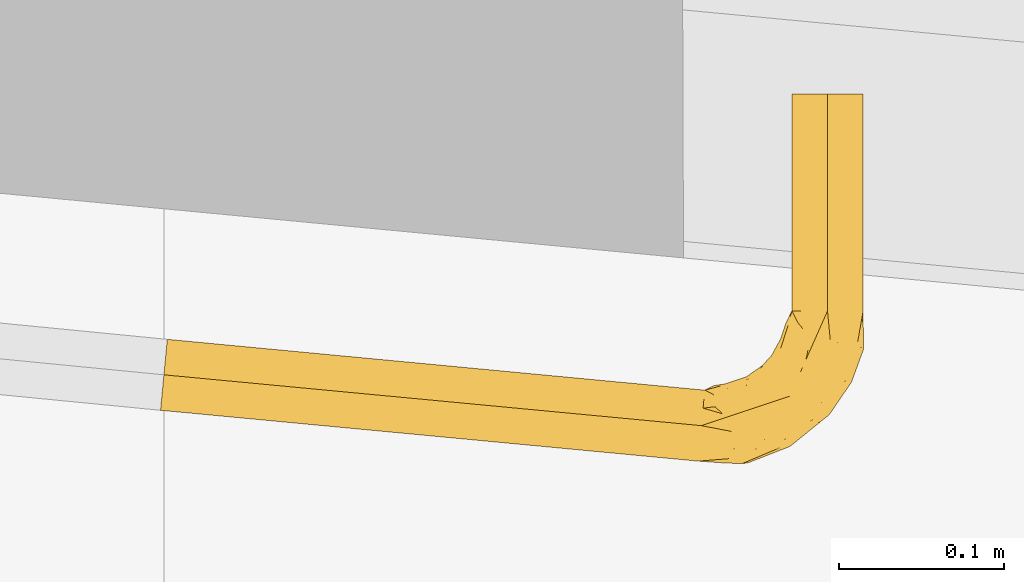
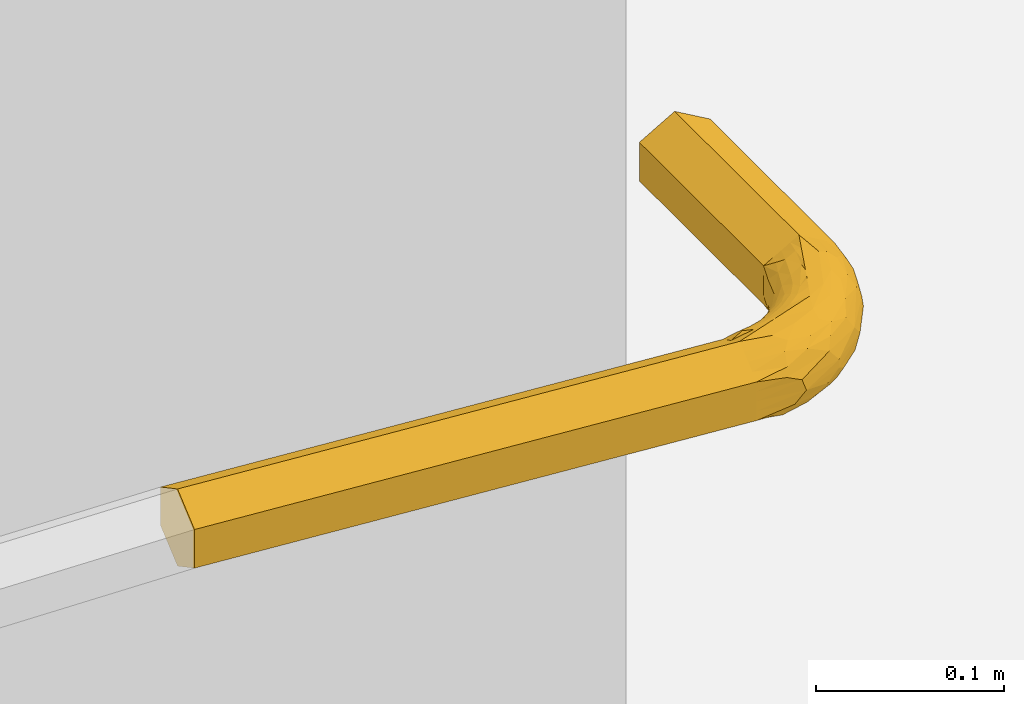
# One storey, part 65 of 128: 1 railing.
"""IFC2X3 building model written with IfcOpenShell, lengths in metres."""

from ifc_helpers import new_model, entity, si_unit, converted_unit, derived_unit, direction, frame, origin, place, context, subcontext, project, spatial, faceted_brep, material, type_object, element, save


model = new_model("IFC2X3")

# Units and contexts
model_context = context("Model", 3, precision=1e-05, world=origin(), true_north=direction((6.123031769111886e-17, 1.0)))
body_context = subcontext(model_context, "Body", "Model", "MODEL_VIEW")
ifc_project = project(units=[si_unit("LENGTHUNIT", "METRE"), si_unit("AREAUNIT", "SQUARE_METRE"), converted_unit("PLANEANGLEUNIT", "DEGREE", entity("IfcPlaneAngleMeasure", 0.017453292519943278), si_unit("PLANEANGLEUNIT", "RADIAN"), dimensions=[0, 0, 0, 0, 0, 0, 0]), derived_unit("THERMALTRANSMITTANCEUNIT", [(si_unit("MASSUNIT", "GRAM", prefix="KILO"), 1), (si_unit("THERMODYNAMICTEMPERATUREUNIT", "KELVIN"), -1), (si_unit("TIMEUNIT", "SECOND"), -3)])], contexts=[model_context])

# Site, building, storey
site_placement = place(None, origin())
site = spatial("IfcSite", under=ifc_project, at=site_placement, Name="Default", CompositionType="ELEMENT")
building_placement = place(site_placement, origin())
building = spatial("IfcBuilding", under=site, at=building_placement, CompositionType="ELEMENT")
storey_placement = place(building_placement, origin())
storey = spatial("IfcBuildingStorey", under=building, at=storey_placement, Name="00_RDC CAF", CompositionType="ELEMENT", Elevation=2.4982504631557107e-13)

# Railing
ifc_material = material(Name="ARC - Metal")
railing_type = type_object("IfcRailingType", Name="Garde-corps:GC_1_lisse_D50_950mm 2", PredefinedType="NOTDEFINED")
railing_placement = place(storey_placement, frame((21.603095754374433, 146.45242067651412, 0.8984047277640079)))
element("IfcRailing", 1, at=railing_placement, inside=storey, type_object=railing_type, material=ifc_material, Name="Garde-corps:GC_1_lisse_D50_950mm 2", ObjectType="Garde-corps:GC_1_lisse_D50_950mm 2", PredefinedType="NOTDEFINED", context=body_context, shape_type="Brep", body=[
    faceted_brep([(0.4287881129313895, 0.22806232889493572, 0.03909527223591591), (0.4287881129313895, 0.22806232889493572, 0.03284527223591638), (0.4287881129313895, 0.22806232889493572, 0.02659527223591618), (0.4287881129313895, 0.22806232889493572, 0.020345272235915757), (0.4287881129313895, 0.22806232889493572, 0.014095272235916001), (0.4233754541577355, 0.22806232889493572, 0.010970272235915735), (0.41796279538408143, 0.22806232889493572, 0.007845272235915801), (0.41255013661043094, 0.22806232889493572, 0.004720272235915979), (0.4071374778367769, 0.22806232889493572, 0.0015952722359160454), (0.40236088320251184, 0.22806232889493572, 0.004353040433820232), (0.39758428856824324, 0.22806232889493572, 0.007110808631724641), (0.39153556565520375, 0.22806232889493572, 0.010603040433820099), (0.3854868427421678, 0.22806232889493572, 0.014095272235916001), (0.3854868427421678, 0.22806232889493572, 0.020345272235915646), (0.3854868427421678, 0.22806232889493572, 0.026595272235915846), (0.3854868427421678, 0.22806232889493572, 0.032845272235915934), (0.3854868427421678, 0.22806232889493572, 0.03909527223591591), (0.3908995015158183, 0.22806232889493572, 0.04222027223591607), (0.3963121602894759, 0.22806232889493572, 0.04534527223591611), (0.4017248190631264, 0.22806232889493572, 0.048470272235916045), (0.4071374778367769, 0.22806232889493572, 0.05159527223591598), (0.4119140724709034, 0.22806232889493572, 0.04883750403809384), (0.41669066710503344, 0.22806232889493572, 0.04607973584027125), (0.4227393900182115, 0.22806232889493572, 0.04258750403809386), (0.4071374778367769, 0.09617335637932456, 0.0015952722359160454), (0.4017248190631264, 0.09617335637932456, 0.004720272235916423), (0.3963121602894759, 0.09617335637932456, 0.0078452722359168), (0.3908995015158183, 0.09617335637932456, 0.010970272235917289), (0.3854868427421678, 0.09617335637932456, 0.014095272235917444), (0.3854868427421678, 0.09617335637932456, 0.03909527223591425), (0.38822661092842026, 0.09617335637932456, 0.040677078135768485), (0.3908995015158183, 0.09617335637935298, 0.042220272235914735), (0.3963121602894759, 0.09617335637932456, 0.04534527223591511), (0.4017916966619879, 0.09617335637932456, 0.04850888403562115), (0.4023608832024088, 0.09617335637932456, 0.04883750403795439), (0.4071374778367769, 0.09617335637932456, 0.05159527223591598), (0.3854868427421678, 0.09617335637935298, 0.020345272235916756), (0.3854868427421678, 0.09617335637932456, 0.026595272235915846), (0.3854868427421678, 0.09617335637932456, 0.032845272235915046), (0.4125501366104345, 0.09617335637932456, 0.048470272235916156), (0.417962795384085, 0.09617335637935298, 0.04534527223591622), (0.4233754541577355, 0.09617335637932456, 0.04222027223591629), (0.4287881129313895, 0.09617335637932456, 0.03909527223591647), (0.4287881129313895, 0.09617335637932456, 0.014095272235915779), (0.4233754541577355, 0.09617335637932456, 0.010970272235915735), (0.417962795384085, 0.09617335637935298, 0.007845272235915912), (0.4124865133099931, 0.09617335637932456, 0.0046835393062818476), (0.411914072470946, 0.09617335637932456, 0.004353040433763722), (0.4287881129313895, 0.09617335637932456, 0.03284527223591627), (0.4287881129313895, 0.09617335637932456, 0.02659527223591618), (0.4287881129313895, 0.09617335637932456, 0.02034527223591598), (0.38751513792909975, 0.05178951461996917, 0.0515952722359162), (0.37931837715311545, 0.04994493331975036, 0.050468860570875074), (0.38424747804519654, 0.04439838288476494, 0.05159527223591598), (0.38168312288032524, 0.08842866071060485, 0.023332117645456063), (0.3953480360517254, 0.07287458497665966, 0.050505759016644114), (0.39897202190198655, 0.08561187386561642, 0.05051487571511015), (0.3924421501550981, 0.08506481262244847, 0.04757841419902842), (0.34728164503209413, 0.04483958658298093, 0.04427708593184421), (0.35749487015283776, 0.05080555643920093, 0.04122261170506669), (0.34527112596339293, 0.04878197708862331, 0.03862447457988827), (0.3890275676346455, 0.08921053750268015, 0.04430570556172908), (0.3876927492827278, 0.0710588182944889, 0.047604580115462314), (0.3838539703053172, 0.06229309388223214, 0.04836510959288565), (0.39012686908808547, 0.06507804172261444, 0.05008389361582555), (0.38424747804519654, 0.04439838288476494, 0.0015952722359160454), (0.37753447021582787, 0.04707762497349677, 0.0024338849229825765), (0.3857417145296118, 0.05206765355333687, 0.0019796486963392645), (0.38482577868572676, 0.056346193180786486, 0.05032486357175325), (0.37828454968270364, 0.05459011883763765, 0.04879323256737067), (0.37260194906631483, 0.051024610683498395, 0.004995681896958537), (0.3790540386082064, 0.0610778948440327, 0.006847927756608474), (0.3829276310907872, 0.05689725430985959, 0.0035424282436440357), (0.3654174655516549, 0.059925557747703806, 0.0196830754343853), (0.3674224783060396, 0.06288944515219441, 0.02659527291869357), (0.37314869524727, 0.06832919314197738, 0.021520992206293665), (0.3973181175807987, 0.07396290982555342, 0.05159527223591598), (0.4022277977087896, 0.08506813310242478, 0.05159527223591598), (0.38519189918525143, 0.08743013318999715, 0.013276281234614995), (0.38244804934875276, 0.07849873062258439, 0.013611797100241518), (0.3830757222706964, 0.08753607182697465, 0.017423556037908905), (0.3508193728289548, 0.05241037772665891, 0.033065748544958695), (0.35783974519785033, 0.056161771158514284, 0.028177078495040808), (0.3448632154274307, 0.05182775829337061, 0.025772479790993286), (0.350832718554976, 0.04199476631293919, 0.047227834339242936), (0.3404314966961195, 0.04174614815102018, 0.04623146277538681), (0.33884940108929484, 0.03799257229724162, 0.048638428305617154), (0.37782410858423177, 0.06618162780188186, 0.010893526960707), (0.3782150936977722, 0.07114661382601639, 0.014535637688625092), (0.36876026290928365, 0.05530430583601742, 0.043600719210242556), (0.3639677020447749, 0.048880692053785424, 0.046109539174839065), (0.37148780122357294, 0.05301346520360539, 0.04671491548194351), (0.37709449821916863, 0.05935486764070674, 0.046077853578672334), (0.34328461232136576, 0.033704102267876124, 0.050527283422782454), (0.35832444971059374, 0.03471491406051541, 0.05109178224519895), (0.3540774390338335, 0.038662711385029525, 0.04948785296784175), (0.3668245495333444, 0.058049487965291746, 0.03904299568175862), (0.3727356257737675, 0.06487544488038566, 0.03728419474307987), (0.3654397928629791, 0.0601501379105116, 0.03291321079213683), (0.3816158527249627, 0.08782488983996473, 0.030157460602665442), (0.384184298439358, 0.07179330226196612, 0.008275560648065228), (0.3832424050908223, 0.0875577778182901, 0.03616235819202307), (0.3794180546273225, 0.07843229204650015, 0.020124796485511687), (0.3402515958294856, 0.04282364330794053, 0.00786605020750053), (0.34968587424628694, 0.04416079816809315, 0.007809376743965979), (0.3478940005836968, 0.0402933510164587, 0.005298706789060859), (0.386317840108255, 0.08218107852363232, 0.04299656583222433), (0.37841785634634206, 0.07263694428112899, 0.03753116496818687), (0.3816306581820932, 0.07010018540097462, 0.043487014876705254), (0.3928188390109, 0.06741453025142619, 0.002694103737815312), (0.3899699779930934, 0.057342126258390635, 0.0015952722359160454), (0.389639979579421, 0.07762025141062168, 0.006099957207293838), (0.3876578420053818, 0.08509868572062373, 0.009541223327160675), (0.3956924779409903, 0.07028586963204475, 0.0015952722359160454), (0.3983431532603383, 0.08213495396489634, 0.002656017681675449), (0.33998814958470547, 0.03383203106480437, 0.0027764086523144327), (0.33155406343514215, 0.03712832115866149, 0.007768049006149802), (0.3399020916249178, 0.03880476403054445, 0.004982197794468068), (0.36627932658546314, 0.042427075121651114, 0.003218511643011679), (0.3616406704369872, 0.04655416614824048, 0.006345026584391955), (0.3869428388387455, 0.0668961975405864, 0.004789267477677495), (0.3619921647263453, 0.035862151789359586, 0.002054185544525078), (0.3708224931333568, 0.03991984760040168, 0.0015952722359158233), (0.35739750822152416, 0.03544131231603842, 0.0015952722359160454), (0.35660032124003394, 0.0411608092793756, 0.004473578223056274), (0.3930191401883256, 0.08705912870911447, 0.005477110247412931), (0.35170996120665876, 0.032169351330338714, 0.0019780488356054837), (0.36341761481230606, 0.05580017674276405, 0.014405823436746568), (0.35555715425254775, 0.053675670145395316, 0.018585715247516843), (0.37308209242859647, 0.06901158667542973, 0.028223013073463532), (0.35402258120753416, 0.049692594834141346, 0.012354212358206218), (0.3432949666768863, 0.046799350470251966, 0.01192558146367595), (0.37466666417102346, 0.06287905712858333, 0.04181828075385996), (0.3411597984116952, 0.05031731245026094, 0.033704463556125), (0.35337676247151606, 0.05402178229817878, 0.02367150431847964), (0.34670876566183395, 0.05157311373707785, 0.021081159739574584), (0.3592046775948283, 0.05488966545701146, 0.03593804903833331), (0.4017343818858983, 0.08787484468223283, 0.0020746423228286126), (0.4014149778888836, 0.08322961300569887, 0.0015952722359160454), (0.3325857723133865, 0.04803872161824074, 0.014095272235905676), (0.34354196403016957, 0.049709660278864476, 0.017028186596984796), (0.37940152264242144, 0.08053501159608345, 0.024800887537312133), (0.3727484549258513, 0.06448841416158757, 0.015361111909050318), (0.3748594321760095, 0.07017004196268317, 0.03293093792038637), (0.37769510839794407, 0.07642093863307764, 0.028957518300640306), (0.3792256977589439, 0.07761137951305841, 0.03359397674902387), (0.3947340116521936, 0.06424624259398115, 0.05124902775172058), (0.39405045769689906, 0.0665717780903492, 0.05159527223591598), (0.3558259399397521, 0.04587905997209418, 0.045511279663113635), (0.35985917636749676, 0.04346461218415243, 0.048186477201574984), (0.36398305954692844, 0.03995310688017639, 0.050380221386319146), (0.36872351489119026, 0.04752895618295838, 0.04852677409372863), (0.3724674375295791, 0.04500552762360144, 0.05034074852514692), (0.3380691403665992, 0.04523307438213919, 0.04278328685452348), (0.3708224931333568, 0.03991984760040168, 0.05159527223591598), (0.3325857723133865, 0.04803872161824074, 0.039095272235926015), (0.3382414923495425, 0.05087866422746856, 0.022682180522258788), (0.3325857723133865, 0.04803872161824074, 0.020345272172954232), (0.3325857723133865, 0.04803872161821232, 0.0265952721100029), (0.36664774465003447, 0.05358995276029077, 0.00944598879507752), (0.3714527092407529, 0.05976531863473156, 0.011554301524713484), (0.3325857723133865, 0.04803872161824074, 0.03284527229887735), (0.3420656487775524, 0.030326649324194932, 0.0015952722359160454), (0.33054753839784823, 0.0264842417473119, 0.0015952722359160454), (0.3309091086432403, 0.03030787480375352, 0.003812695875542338), (0.33105080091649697, 0.031806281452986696, 0.004681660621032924), (0.3503284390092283, 0.03658562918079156, 0.0032597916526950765), (0.3497315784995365, 0.032883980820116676, 0.0015952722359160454), (0.3312706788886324, 0.03413150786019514, 0.0060301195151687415), (0.33192822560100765, 0.04108511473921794, 0.01006269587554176), (0.3320699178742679, 0.04258352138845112, 0.010931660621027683), (0.369606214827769, 0.03929073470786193, 0.0020041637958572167), (0.33105080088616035, 0.031806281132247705, 0.04850888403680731), (0.33054753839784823, 0.02648424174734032, 0.05159527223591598), (0.34206564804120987, 0.03032664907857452, 0.05159527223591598), (0.34973157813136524, 0.03288398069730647, 0.05159527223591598), (0.35739750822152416, 0.03544131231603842, 0.05159527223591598), (0.33155406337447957, 0.03712832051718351, 0.04542249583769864), (0.3907827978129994, 0.059180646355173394, 0.0515952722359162), (0.3320699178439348, 0.04258352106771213, 0.04225888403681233), (0.3956924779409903, 0.07028586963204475, 0.05159527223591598), (0.4289754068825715, 0.07271809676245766, 0.029860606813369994), (0.427530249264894, 0.07390493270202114, 0.036166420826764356), (0.42084613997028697, 0.0530835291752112, 0.033065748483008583), (0.4034927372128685, 0.040595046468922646, 0.04532742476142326), (0.38613538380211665, 0.02519851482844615, 0.04559778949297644), (0.39766865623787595, 0.029648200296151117, 0.04167187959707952), (0.3966002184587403, 0.052088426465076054, 0.0019209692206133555), (0.3971129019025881, 0.042167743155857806, 0.004004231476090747), (0.3843260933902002, 0.036660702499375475, 0.00231383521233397), (0.39341789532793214, 0.031773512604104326, 0.007001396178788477), (0.3976686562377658, 0.02964820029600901, 0.011518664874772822), (0.382019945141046, 0.01955626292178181, 0.010110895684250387), (0.41503904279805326, 0.07703255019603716, 0.003779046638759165), (0.4165224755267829, 0.07264759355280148, 0.04807135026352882), (0.415453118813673, 0.059037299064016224, 0.04522238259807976), (0.4219361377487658, 0.07639461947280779, 0.04485597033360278), (0.4217266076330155, 0.05293585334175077, 0.026367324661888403), (0.40824413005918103, 0.03318353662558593, 0.02605079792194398), (0.4208549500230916, 0.05310064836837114, 0.02012479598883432), (0.40852064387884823, 0.05427368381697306, 0.04808680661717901), (0.36397265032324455, 0.012325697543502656, 0.009284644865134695), (0.35768494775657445, 0.014103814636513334, 0.00630333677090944), (0.37433152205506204, 0.019611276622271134, 0.006684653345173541), (0.37766100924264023, 0.01284543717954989, 0.037157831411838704), (0.40215982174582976, 0.028591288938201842, 0.03430055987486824), (0.36705378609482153, 0.009803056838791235, 0.013678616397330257), (0.35161265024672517, 0.0042085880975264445, 0.017028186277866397), (0.347261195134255, 0.006400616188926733, 0.012062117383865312), (0.41334276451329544, 0.07717818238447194, 0.050092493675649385), (0.35562058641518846, 0.0035575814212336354, 0.03184737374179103), (0.38430434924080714, 0.013829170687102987, 0.028871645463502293), (0.40889525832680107, 0.07792774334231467, 0.051266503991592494), (0.34894655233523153, 0.020887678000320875, 0.0023778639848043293), (0.3660596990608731, 0.025325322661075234, 0.0024615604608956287), (0.3550443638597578, 0.01762207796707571, 0.003938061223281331), (0.35504177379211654, 0.01762374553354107, 0.04925350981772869), (0.3300439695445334, 0.021158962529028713, 0.0485070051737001), (0.3298243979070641, 0.018836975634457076, 0.04716042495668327), (0.3295284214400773, 0.015707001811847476, 0.045345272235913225), (0.42686571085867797, 0.06861098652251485, 0.019151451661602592), (0.428976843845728, 0.07272256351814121, 0.023332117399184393), (0.3813571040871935, 0.01824861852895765, 0.04211795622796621), (0.3583670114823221, 0.003703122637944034, 0.024107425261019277), (0.3285093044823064, 0.004929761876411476, 0.020345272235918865), (0.4032597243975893, 0.029888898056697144, 0.018420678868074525), (0.4141608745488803, 0.046496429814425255, 0.014100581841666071), (0.4068361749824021, 0.06121154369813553, 0.0029016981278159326), (0.41131204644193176, 0.05986858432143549, 0.004992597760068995), (0.4056396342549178, 0.04559660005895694, 0.006708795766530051), (0.3858623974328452, 0.018370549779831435, 0.014359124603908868), (0.3795464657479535, 0.027001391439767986, 0.004213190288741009), (0.4192968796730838, 0.07598722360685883, 0.0063035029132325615), (0.4230085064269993, 0.07413235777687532, 0.009951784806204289), (0.4154531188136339, 0.05903729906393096, 0.00796816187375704), (0.4254750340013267, 0.06991673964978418, 0.015016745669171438), (0.37578315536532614, 0.010931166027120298, 0.018327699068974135), (0.3285093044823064, 0.004929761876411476, 0.014095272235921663), (0.39533843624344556, 0.04200589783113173, 0.049716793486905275), (0.3960038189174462, 0.05069708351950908, 0.051207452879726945), (0.37994359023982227, 0.033998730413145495, 0.05098605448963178), (0.3503501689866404, 0.012421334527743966, 0.04675265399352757), (0.41799505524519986, 0.05378541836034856, 0.03969276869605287), (0.32901886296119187, 0.010318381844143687, 0.04222027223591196), (0.34827331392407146, 0.006491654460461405, 0.04108822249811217), (0.34633850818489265, 0.0036724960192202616, 0.03649276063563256), (0.3285093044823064, 0.004929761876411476, 0.03284527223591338), (0.36397265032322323, 0.012325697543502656, 0.04390589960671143), (0.3285093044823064, 0.004929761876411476, 0.02659527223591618), (0.38425558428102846, 0.013934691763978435, 0.023288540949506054), (0.39035447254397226, 0.019205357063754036, 0.01827304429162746), (0.40933392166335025, 0.04443830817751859, 0.010138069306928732), (0.42554070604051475, 0.07767332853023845, 0.04116131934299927), (0.3290188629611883, 0.010318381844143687, 0.010970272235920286), (0.3295284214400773, 0.015707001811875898, 0.007845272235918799), (0.3471824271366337, 0.009674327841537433, 0.00833979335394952), (0.40683617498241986, 0.06121154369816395, 0.05028884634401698), (0.37954646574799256, 0.02700139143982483, 0.0489773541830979), (0.3690995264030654, 0.018115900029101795, 0.04706824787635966), (0.348546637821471, 0.023016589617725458, 0.05126650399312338), (0.33018596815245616, 0.022660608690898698, 0.04937784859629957), (0.3649045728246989, 0.027149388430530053, 0.05120507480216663), (0.3300379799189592, 0.02109562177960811, 0.004720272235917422), (0.4088952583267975, 0.07792774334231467, 0.0019240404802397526), (0.3285093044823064, 0.004929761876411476, 0.03909527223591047), (0.3291668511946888, 0.011883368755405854, 0.04312784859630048), (0.005987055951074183, 0.07892253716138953, 0.014095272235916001), (0.005477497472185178, 0.07353391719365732, 0.010970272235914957), (0.004967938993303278, 0.0681452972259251, 0.007845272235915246), (0.004458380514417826, 0.06275667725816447, 0.004720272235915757), (0.003948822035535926, 0.05736805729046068, 0.0015952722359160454), (0.0035872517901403, 0.05354442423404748, 0.003812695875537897), (0.0029297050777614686, 0.04659081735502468, 0.007845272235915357), (0.002420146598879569, 0.04120219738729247, 0.010970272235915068), (0.0019105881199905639, 0.03581357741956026, 0.014095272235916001), (0.0019105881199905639, 0.03581357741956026, 0.020345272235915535), (0.0019105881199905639, 0.03581357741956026, 0.02659527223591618), (0.0019105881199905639, 0.03581357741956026, 0.032845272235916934), (0.0019105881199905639, 0.03581357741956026, 0.03909527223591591), (0.0024201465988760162, 0.04120219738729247, 0.04222027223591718), (0.0029297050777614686, 0.04659081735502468, 0.04534527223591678), (0.0034392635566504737, 0.05197943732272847, 0.04847027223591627), (0.003948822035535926, 0.05736805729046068, 0.05159527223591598), (0.004310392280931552, 0.06119169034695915, 0.04937784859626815), (0.004967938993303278, 0.0681452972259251, 0.04534527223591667), (0.00547749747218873, 0.07353391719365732, 0.042220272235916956), (0.005987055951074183, 0.07892253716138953, 0.03909527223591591), (0.005987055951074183, 0.07892253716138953, 0.03284527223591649), (0.005987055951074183, 0.07892253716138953, 0.026595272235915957), (0.005987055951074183, 0.07892253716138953, 0.020345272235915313)], [[[0, 1, 2, 3, 4, 5, 6, 7, 8, 9, 10, 11, 12, 13, 14, 15, 16, 17, 18, 19, 20, 21, 22, 23]], [[10, 9, 8, 24, 25, 26, 27, 28, 12, 11]], [[18, 17, 16, 29, 30, 31, 32, 33, 34, 35, 20, 19]], [[14, 13, 12, 28, 36, 37, 38, 29, 16, 15]], [[22, 21, 20, 35, 39, 40, 41, 42, 0, 23]], [[6, 5, 4, 43, 44, 45, 46, 47, 24, 8, 7]], [[2, 1, 0, 42, 48, 49, 50, 43, 4, 3]], [[51, 52, 53]], [[37, 36, 54]], [[55, 56, 57]], [[58, 59, 60]], [[30, 29, 61, 31]], [[62, 63, 64]], [[65, 66, 67]], [[68, 69, 52]], [[70, 71, 72]], [[73, 74, 75]], [[76, 77, 56]], [[78, 79, 80]], [[81, 82, 83]], [[84, 85, 86]], [[79, 87, 88]], [[89, 59, 90]], [[89, 91, 92]], [[93, 94, 95]], [[96, 97, 98]], [[37, 54, 99]], [[79, 100, 87]], [[38, 101, 29]], [[102, 54, 80]], [[103, 104, 105]], [[106, 107, 108]], [[67, 109, 110]], [[111, 100, 112]], [[113, 109, 114]], [[115, 116, 117]], [[118, 119, 70]], [[109, 113, 110]], [[72, 66, 70]], [[100, 120, 71]], [[121, 122, 123]], [[104, 119, 124]], [[100, 111, 120]], [[112, 125, 111]], [[112, 28, 27]], [[126, 121, 123]], [[125, 27, 26]], [[114, 125, 26]], [[79, 112, 100]], [[100, 71, 87]], [[36, 80, 54]], [[73, 127, 128]], [[75, 74, 129]], [[130, 104, 131]], [[132, 89, 92]], [[81, 133, 60]], [[83, 134, 135]], [[136, 82, 81]], [[111, 114, 109]], [[112, 27, 125]], [[114, 137, 138]], [[138, 113, 114]], [[131, 139, 140]], [[141, 54, 102]], [[80, 28, 78]], [[141, 99, 54]], [[142, 73, 75]], [[98, 143, 129]], [[144, 143, 145]], [[101, 38, 99]], [[145, 99, 144]], [[38, 37, 99]], [[63, 108, 92]], [[107, 106, 101]], [[57, 106, 62]], [[55, 57, 62]], [[106, 61, 29]], [[63, 92, 69]], [[77, 35, 34, 33]], [[146, 55, 64]], [[146, 147, 55]], [[92, 91, 69]], [[108, 62, 106]], [[92, 108, 132]], [[96, 132, 97]], [[59, 58, 148]], [[149, 150, 151]], [[152, 151, 150]], [[148, 84, 149]], [[85, 58, 153]], [[77, 33, 56]], [[32, 56, 33]], [[57, 56, 32]], [[56, 55, 76]], [[28, 80, 36]], [[102, 80, 79]], [[57, 32, 31]], [[94, 154, 150]], [[154, 53, 152]], [[86, 95, 84]], [[137, 26, 25, 24]], [[24, 138, 137]], [[107, 97, 132]], [[107, 132, 108]], [[89, 132, 96]], [[59, 89, 96]], [[89, 90, 91]], [[136, 59, 96]], [[60, 155, 153]], [[107, 145, 143]], [[107, 143, 97]], [[82, 98, 74]], [[136, 96, 98]], [[129, 143, 144]], [[98, 97, 143]], [[73, 82, 74]], [[107, 101, 145]], [[82, 134, 83]], [[135, 156, 83]], [[157, 140, 139]], [[158, 83, 156]], [[140, 128, 130]], [[127, 130, 128]], [[119, 130, 159]], [[141, 75, 129]], [[98, 129, 74]], [[141, 129, 144]], [[88, 75, 102]], [[142, 160, 127]], [[128, 134, 73]], [[142, 127, 73]], [[130, 127, 159]], [[136, 60, 59]], [[161, 155, 133, 158]], [[158, 133, 83]], [[155, 60, 133]], [[99, 145, 101]], [[162, 163, 164, 165]], [[117, 166, 115]], [[167, 162, 115]], [[115, 165, 168, 116]], [[126, 123, 167]], [[162, 165, 115]], [[131, 103, 139]], [[166, 105, 124]], [[117, 116, 169, 170]], [[82, 136, 98]], [[136, 81, 60]], [[126, 115, 166]], [[115, 126, 167]], [[122, 121, 171]], [[166, 124, 121]], [[166, 121, 126]], [[121, 118, 171]], [[90, 151, 91]], [[152, 52, 69]], [[69, 91, 151]], [[63, 69, 68]], [[64, 63, 68]], [[63, 62, 108]], [[28, 112, 78]], [[62, 64, 55]], [[149, 151, 90]], [[69, 151, 152]], [[148, 149, 90]], [[149, 95, 150]], [[94, 150, 95]], [[154, 152, 150]], [[172, 173, 174]], [[154, 94, 175, 176]], [[175, 94, 93]], [[177, 172, 93]], [[174, 93, 172]], [[152, 53, 52]], [[51, 178, 68]], [[59, 148, 90]], [[84, 148, 58]], [[179, 85, 153]], [[149, 84, 95]], [[177, 86, 179]], [[84, 58, 85]], [[93, 86, 177]], [[60, 153, 58]], [[179, 153, 155]], [[146, 64, 68]], [[55, 147, 180, 76]], [[146, 178, 147]], [[114, 111, 125]], [[120, 111, 109]], [[109, 72, 120]], [[71, 120, 72]], [[66, 72, 67]], [[87, 160, 142]], [[118, 124, 119]], [[159, 71, 70]], [[171, 65, 122]], [[118, 70, 66]], [[130, 119, 104]], [[159, 70, 119]], [[160, 71, 159]], [[87, 142, 88]], [[71, 160, 87]], [[127, 160, 159]], [[121, 124, 118]], [[166, 117, 105]], [[103, 117, 170]], [[104, 124, 105]], [[117, 103, 105]], [[139, 103, 170]], [[109, 67, 72]], [[110, 65, 67]], [[130, 131, 140]], [[103, 131, 104]], [[75, 88, 142]], [[102, 79, 88]], [[75, 141, 102]], [[99, 141, 144]], [[146, 68, 178]], [[52, 51, 68]], [[79, 78, 112]], [[106, 29, 101]], [[106, 57, 61]], [[57, 31, 61]], [[26, 137, 114]], [[73, 134, 82]], [[135, 128, 140]], [[128, 135, 134]], [[156, 140, 157]], [[140, 156, 135]], [[158, 156, 157]], [[83, 133, 81]], [[118, 66, 171]], [[65, 171, 66]], [[93, 174, 175]], [[95, 86, 93]], [[179, 86, 85]], [[181, 182, 183]], [[184, 185, 186]], [[187, 188, 189]], [[190, 191, 192]], [[46, 45, 193]], [[187, 65, 110, 113]], [[194, 195, 196]], [[197, 198, 199]], [[200, 184, 195]], [[198, 197, 183]], [[201, 202, 203]], [[186, 204, 205]], [[206, 207, 208]], [[209, 40, 39]], [[204, 210, 211]], [[35, 212, 39]], [[213, 214, 215]], [[216, 217, 218, 219]], [[220, 50, 221]], [[185, 222, 186]], [[223, 224, 207]], [[225, 191, 226]], [[183, 205, 198]], [[199, 225, 226]], [[227, 193, 228]], [[228, 229, 188]], [[192, 191, 230]], [[231, 203, 215]], [[232, 233, 234]], [[226, 235, 199]], [[206, 230, 236]], [[237, 208, 207]], [[225, 199, 198]], [[210, 223, 211]], [[184, 238, 185]], [[200, 195, 194]], [[238, 239, 240]], [[241, 216, 219]], [[182, 242, 183]], [[181, 49, 48]], [[243, 244, 241]], [[245, 246, 210]], [[247, 241, 244]], [[205, 204, 211]], [[244, 245, 204]], [[223, 210, 248]], [[198, 205, 211]], [[205, 183, 242]], [[249, 236, 250]], [[199, 221, 197]], [[198, 211, 249]], [[230, 250, 236]], [[223, 248, 224]], [[223, 236, 249]], [[234, 251, 229]], [[44, 233, 232]], [[233, 226, 234]], [[50, 49, 221]], [[235, 43, 50]], [[235, 233, 43]], [[221, 49, 181]], [[220, 221, 199]], [[182, 48, 42]], [[48, 182, 181]], [[41, 252, 42]], [[252, 195, 242]], [[184, 242, 195]], [[205, 242, 186]], [[252, 196, 195]], [[42, 252, 182]], [[221, 181, 197]], [[183, 197, 181]], [[207, 224, 237]], [[253, 208, 237]], [[223, 207, 236]], [[252, 41, 196]], [[242, 182, 252]], [[254, 202, 255]], [[41, 40, 196]], [[194, 196, 40]], [[212, 256, 209]], [[200, 194, 256]], [[238, 200, 256]], [[212, 35, 77, 76, 180]], [[186, 242, 184]], [[239, 238, 256]], [[238, 240, 257]], [[200, 238, 184]], [[185, 238, 257]], [[258, 185, 257]], [[222, 185, 247]], [[258, 216, 241]], [[259, 173, 260, 217]], [[259, 176, 175, 174, 173]], [[257, 240, 261]], [[240, 53, 154, 176]], [[261, 176, 259]], [[239, 180, 147, 178, 51, 53]], [[239, 256, 212]], [[240, 239, 53]], [[255, 208, 253]], [[206, 208, 201]], [[192, 230, 206]], [[207, 206, 236]], [[192, 206, 201]], [[225, 230, 191]], [[201, 203, 192]], [[192, 203, 190]], [[188, 190, 231]], [[190, 229, 251]], [[203, 202, 215]], [[190, 203, 231]], [[213, 123, 214]], [[231, 214, 189]], [[189, 188, 231]], [[189, 123, 122, 65]], [[188, 227, 228]], [[231, 215, 214]], [[65, 187, 189]], [[215, 254, 262]], [[213, 215, 262]], [[123, 189, 214]], [[232, 193, 45]], [[263, 113, 138, 24]], [[263, 24, 47, 46]], [[263, 193, 227]], [[44, 232, 45]], [[228, 232, 234]], [[43, 233, 44]], [[226, 233, 235]], [[232, 228, 193]], [[228, 234, 229]], [[234, 226, 251]], [[188, 229, 190]], [[226, 191, 251]], [[190, 251, 191]], [[263, 187, 113]], [[188, 187, 227]], [[255, 202, 201]], [[254, 215, 202]], [[208, 255, 201]], [[254, 255, 253]], [[247, 204, 222]], [[204, 186, 222]], [[217, 216, 259]], [[216, 257, 261]], [[239, 212, 180]], [[209, 256, 194]], [[187, 263, 227]], [[193, 263, 46]], [[40, 209, 194]], [[39, 212, 209]], [[262, 163, 213]], [[213, 163, 162, 167, 123]], [[230, 225, 250]], [[225, 198, 249]], [[249, 250, 225]], [[223, 249, 211]], [[216, 261, 259]], [[240, 176, 261]], [[244, 264, 245]], [[244, 243, 264]], [[204, 247, 244]], [[210, 246, 248]], [[246, 245, 264]], [[204, 245, 210]], [[199, 235, 220]], [[50, 220, 235]], [[241, 219, 265, 243]], [[258, 241, 247]], [[185, 258, 247]], [[216, 258, 257]], [[266, 267, 268, 269, 270, 271, 272, 273, 274, 275, 276, 277, 278, 279, 280, 281, 282, 283, 284, 285, 286, 287, 288, 289]], [[139, 170, 169, 116, 168, 165, 164, 163, 270, 269, 268, 267, 266]], [[177, 179, 155, 286, 285, 284, 283, 282, 173, 172]], [[158, 157, 139, 266, 289, 288, 287, 286, 155, 161]], [[264, 243, 265, 219, 218, 217, 260, 173, 282, 281, 280, 279, 278]], [[254, 253, 237, 274, 273, 272, 271, 270, 163, 262]], [[248, 246, 264, 278, 277, 276, 275, 274, 237, 224]]]),
])

save(model, "model.ifc")
